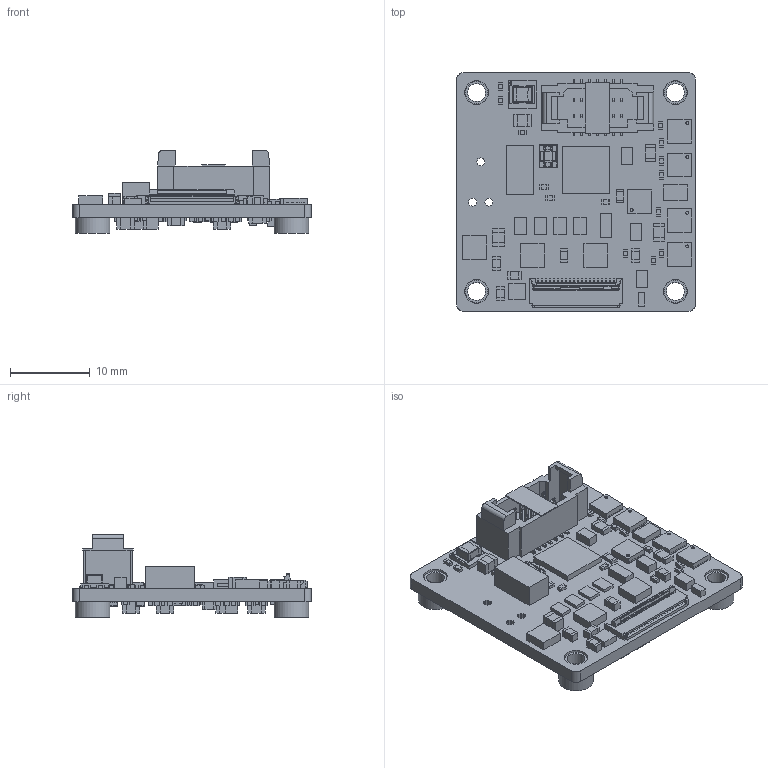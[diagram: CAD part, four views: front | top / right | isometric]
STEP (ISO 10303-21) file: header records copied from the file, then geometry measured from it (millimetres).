
FILE_DESCRIPTION(/* description */ ('Open CASCADE Model'),/* implementation_level */ '2;1');
FILE_NAME(/* name */ 'MR-E-2_Proxy_C0_rev.stp',/* time_stamp */ '2023-08-31T08:41:31+02:00',/* author */ ('ondrej.cernek'),/* organization */ ('Open CASCADE'),/* preprocessor_version */ 'ST-DEVELOPER v19.2',/* originating_system */ 'Autodesk Inventor 2024',/* authorisation */ 'Unknown');
FILE_SCHEMA (('AUTOMOTIVE_DESIGN { 1 0 10303 214 3 1 1 }'));
Products named in the file (258): PCB; Board; U6; U22; 1158578648; Extruded; R40; R39; R38; R27; R28; R29; R30; C66; C67; C68; C69; C1; C2; C3; C4; C5; C6; C7; C8; C9; C10; C11; C12; C13; C14; C15; C16; C17; C18; C19; C20; C21; C22; C23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
Assembly tree (599 placements, depth 5):
  PCB
    Board
    U6
      1158575384
        Extruded_24
    U22
      1158578648
        Extruded
    R40
      1158574432
        Extruded_33
      1158574840  x2
        Extruded_32
    R39
      1158574296  x2
        Extruded_31
      1158574432
        Extruded_33
    R38
      1158574296  x2
        Extruded_31
      1158574432
        Extruded_33
    R27
      1158574296  x2
        Extruded_31
      1158574432
        Extruded_33
    R28
      1158574296  x2
        Extruded_31
      1158574432
        Extruded_33
    R29
      1158574296  x2
        Extruded_31
      1158574432
        Extruded_33
    R30
      1158574296  x2
        Extruded_31
      1158574432
        Extruded_33
    C66
      1158576608  x2
        Extruded_10
      1158574704
        Extruded_13
    C67
      1158576608  x2
        Extruded_10
      1158574704
        Extruded_13
    C68
      1158576608  x2
        Extruded_10
      1158574704
        Extruded_13
    C69
      1158576608  x2
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Bounding box: 30 x 30 x 10.44 mm (x, y, z)
Volume: 2075.5 mm3; surface area: 4821.5 mm2
Topology: 467 solids, 480 shells, 4853 faces, 11609 edges, 7912 vertices
Faces by surface type: plane 4341, cylinder 378, sphere 72, torus 58, bspline 4
Full cylindrical faces by diameter (mm): 0.106 x1, 0.164 x4, 0.3 x9, 0.375 x5, 0.75 x2, 0.8 x1, 0.9 x2, 2.25 x4, 2.8 x4, 3 x4, 4.35 x4
Entity records: 71521 total; most frequent: CARTESIAN_POINT 13910, DIRECTION 10740, ORIENTED_EDGE 9872, EDGE_CURVE 4975, LINE 4344, VECTOR 4344, VERTEX_POINT 3358, AXIS2_PLACEMENT_3D 3198
